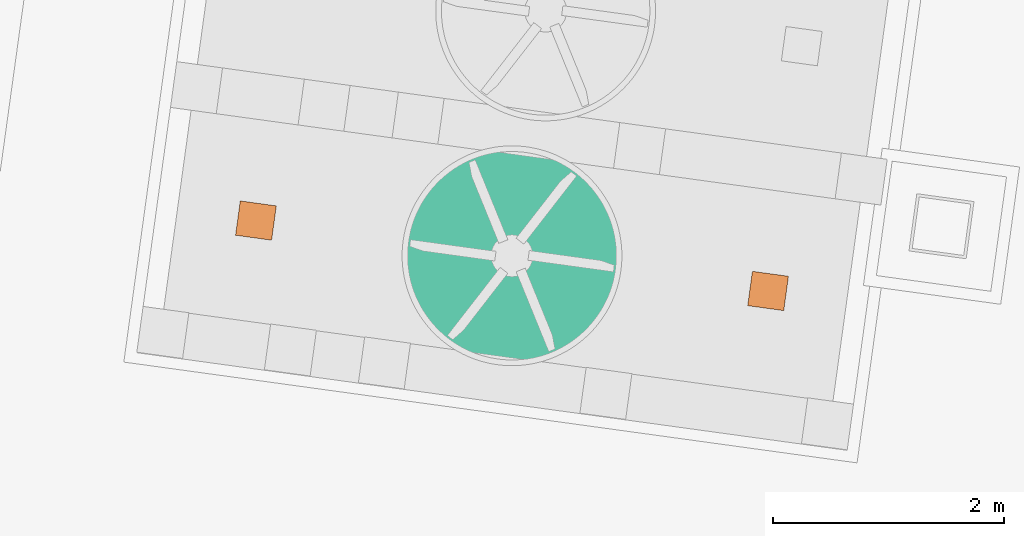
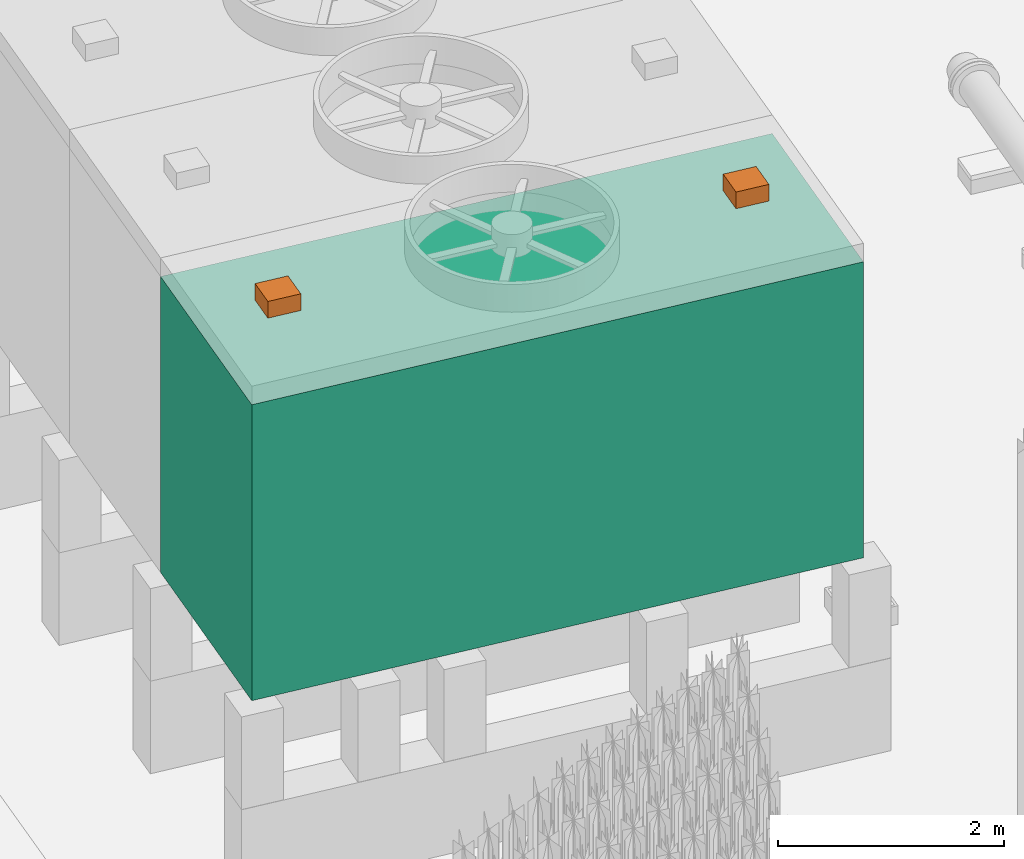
# Not in any storey, part 35 of 75: 2 proxies, 1 cooling tower.
"""IFC4 model written with IfcOpenShell, lengths in metres."""

from ifc_helpers import new_model, si_unit, direction, origin_with_axes, place, context, subcontext, project, spatial, triangles, element, aggregate, save


model = new_model("IFC4")

# Units and contexts
model_context = context("Model", 3, precision=1e-05, world=origin_with_axes(), true_north=direction((0.0, 1.0)))
body_context = subcontext(model_context, "Body", "Model", "MODEL_VIEW")
ifc_project = project(units=[si_unit("AREAUNIT", "SQUARE_METRE"), si_unit("VOLUMEUNIT", "CUBIC_METRE"), si_unit("LENGTHUNIT", "METRE")], contexts=[model_context])

# Site
site_placement = place(None, origin_with_axes())
site = spatial("IfcSite", under=ifc_project, at=site_placement, Name="Parcela industrial Jinhong")

# Cooling tower, proxies
cooling_tower_placement = place(site_placement, origin_with_axes())
cooling_tower = element("IfcCoolingTower", 1, at=cooling_tower_placement, inside=site, Name="Torre de refrigeración WT3001D · Envolvente del cuerpo de la torre", ObjectType="Envolvente de equipo", PredefinedType="USERDEFINED", context=body_context, shape_type="Tessellation", body=[
    triangles([(41.65741, 42.104178, 6.3), (36.153404, 45.021028, 6.3), (35.861928, 42.900971, 6.3), (36.153404, 45.021028, 3.1), (41.65741, 42.104178, 3.1), (35.861928, 42.900971, 3.1), (41.948887, 44.224235, 6.3), (41.948887, 44.224235, 3.1)], [[1, 2, 3], [4, 5, 6], [1, 7, 2], [5, 4, 8], [5, 8, 7], [5, 7, 1], [8, 4, 2], [7, 8, 2], [3, 4, 6], [4, 3, 2], [6, 5, 1], [3, 6, 1]], closed=True),
])
proxy_1_placement = place(cooling_tower_placement, origin_with_axes())
proxy_1 = element("IfcBuildingElementProxy", 2, at=proxy_1_placement, Name="Torre de refrigeración WT3001D · Montaje lateral indicado en planta", context=body_context, shape_type="Tessellation", body=[
    triangles([(36.864231, 43.994645, 6.68), (36.552167, 44.03755, 6.68), (36.82337, 43.697441, 6.68), (36.552167, 44.03755, 6.5), (36.864231, 43.994645, 6.5), (36.82337, 43.697441, 6.5), (36.511306, 43.740345, 6.68), (36.511306, 43.740345, 6.5)], [[1, 2, 3], [4, 5, 6], [2, 7, 3], [6, 8, 4], [7, 4, 8], [4, 7, 2], [8, 6, 3], [7, 8, 3], [5, 1, 6], [1, 3, 6], [5, 4, 2], [5, 2, 1]], closed=True),
])
proxy_2_placement = place(cooling_tower_placement, origin_with_axes())
proxy_2 = element("IfcBuildingElementProxy", 3, at=proxy_2_placement, Name="Torre de refrigeración WT3001D · Montaje lateral indicado en planta", context=body_context, shape_type="Tessellation", body=[
    triangles([(41.299509, 43.384861, 6.68), (40.946583, 43.13056, 6.68), (41.258647, 43.087656, 6.68), (40.946583, 43.13056, 6.5), (41.299509, 43.384861, 6.5), (41.258647, 43.087656, 6.5), (40.987444, 43.427765, 6.68), (40.987444, 43.427765, 6.5)], [[1, 2, 3], [4, 5, 6], [2, 1, 7], [4, 8, 5], [7, 5, 8], [5, 7, 1], [4, 2, 8], [8, 2, 7], [3, 4, 6], [4, 3, 2], [5, 1, 6], [1, 3, 6]], closed=True),
])
aggregate(cooling_tower, [proxy_1, proxy_2])

save(model, "model.ifc")
